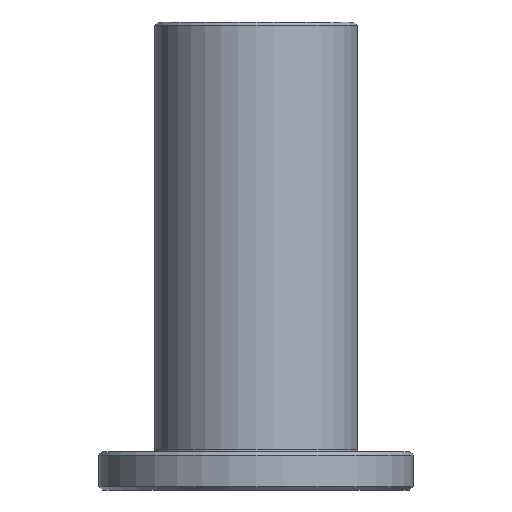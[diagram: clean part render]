
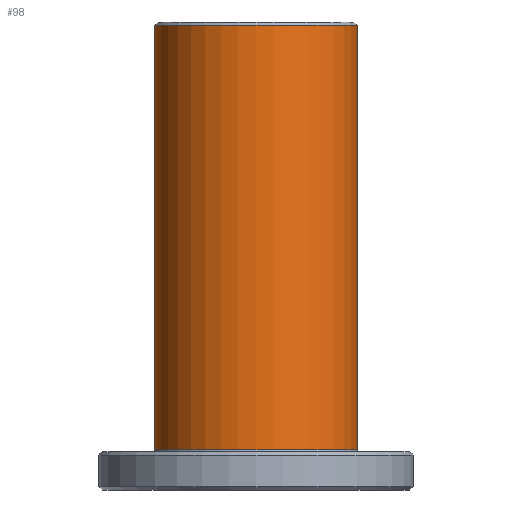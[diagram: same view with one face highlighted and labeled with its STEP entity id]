
A CAD part, front view. The second image highlights one B-rep face of the part: STEP entity #98.
In plain terms, the highlighted cylindrical face has radius 29 mm (diameter 58 mm), a full revolution.
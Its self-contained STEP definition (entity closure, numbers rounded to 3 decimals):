
#98=ADVANCED_FACE('',(#195,#196),#197,.T.);
#195=FACE_OUTER_BOUND('',#351,.T.);
#196=FACE_OUTER_BOUND('',#352,.T.);
#197=CYLINDRICAL_SURFACE('',#353,29.0);
#351=EDGE_LOOP('',(#598));
#352=EDGE_LOOP('',(#599));
#353=AXIS2_PLACEMENT_3D('',#600,#601,#602);
#598=ORIENTED_EDGE('',*,*,#873,.F.);
#599=ORIENTED_EDGE('',*,*,#874,.T.);
#600=CARTESIAN_POINT('',(0.,0.0,72.25));
#601=DIRECTION('',(0.,-0.0,1.0));
#602=DIRECTION('',(0.0,1.0,0.0));
#873=EDGE_CURVE('',#1028,#1028,#1029,.T.);
#874=EDGE_CURVE('',#1030,#1030,#1031,.T.);
#1028=VERTEX_POINT('',#1220);
#1029=CIRCLE('',#1221,29.0);
#1030=VERTEX_POINT('',#1222);
#1031=CIRCLE('',#1223,29.0);
#1220=CARTESIAN_POINT('',(0.,29.0,133.0));
#1221=AXIS2_PLACEMENT_3D('',#1449,#1450,#1451);
#1222=CARTESIAN_POINT('',(0.0,29.0,11.5));
#1223=AXIS2_PLACEMENT_3D('',#1452,#1453,#1454);
#1449=CARTESIAN_POINT('',(0.,0.0,133.0));
#1450=DIRECTION('',(0.,-0.0,1.0));
#1451=DIRECTION('',(0.0,1.0,0.0));
#1452=CARTESIAN_POINT('',(0.0,0.0,11.5));
#1453=DIRECTION('',(0.,-0.0,1.0));
#1454=DIRECTION('',(0.0,1.0,0.0));
